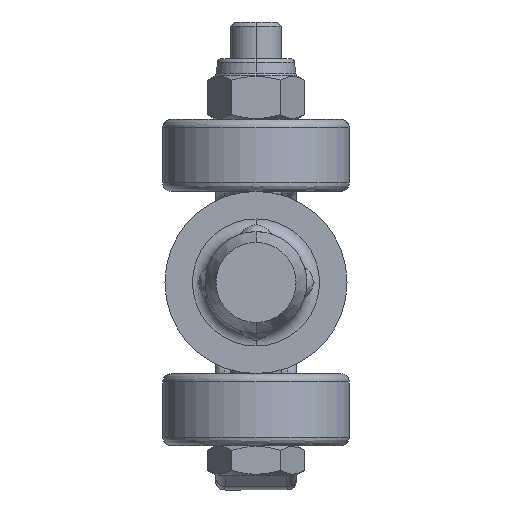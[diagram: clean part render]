
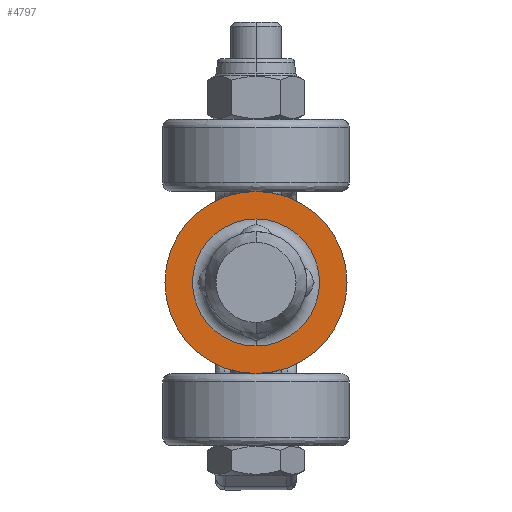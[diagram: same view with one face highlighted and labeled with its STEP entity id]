
A CAD part, front view. The second image highlights one B-rep face of the part: STEP entity #4797.
In plain terms, the highlighted planar face has unit normal (0, -1, 0) as drawn and (-1, 0, 0) by its records, which use the part's own axes.
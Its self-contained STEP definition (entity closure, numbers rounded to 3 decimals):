
#237 = VERTEX_POINT ( 'NONE', #7149 ) ;
#309 = DIRECTION ( 'NONE',  ( 0., 0., -1. ) ) ;
#480 = DIRECTION ( 'NONE',  ( 0., 0., 1. ) ) ;
#631 = VERTEX_POINT ( 'NONE', #8571 ) ;
#794 = ORIENTED_EDGE ( 'NONE', *, *, #9344, .F. ) ;
#819 = DIRECTION ( 'NONE',  ( 0., 0., 1. ) ) ;
#1054 = ORIENTED_EDGE ( 'NONE', *, *, #8908, .F. ) ;
#1238 = PLANE ( 'NONE',  #2893 ) ;
#1327 = EDGE_CURVE ( 'NONE', #3646, #237, #1387, .T. ) ;
#1346 = ORIENTED_EDGE ( 'NONE', *, *, #2818, .F. ) ;
#1387 = CIRCLE ( 'NONE', #2648, 10.75 ) ;
#2172 = DIRECTION ( 'NONE',  ( -1., 0., 0. ) ) ;
#2648 = AXIS2_PLACEMENT_3D ( 'NONE', #9064, #6096, #819 ) ;
#2818 = EDGE_CURVE ( 'NONE', #3698, #631, #2938, .T. ) ;
#2893 = AXIS2_PLACEMENT_3D ( 'NONE', #3513, #7281, #309 ) ;
#2938 = CIRCLE ( 'NONE', #4382, 7.5 ) ;
#3223 = AXIS2_PLACEMENT_3D ( 'NONE', #7997, #8924, #480 ) ;
#3513 = CARTESIAN_POINT ( 'NONE',  ( 0., 6.5, 0. ) ) ;
#3557 = ORIENTED_EDGE ( 'NONE', *, *, #1327, .F. ) ;
#3646 = VERTEX_POINT ( 'NONE', #5272 ) ;
#3698 = VERTEX_POINT ( 'NONE', #3817 ) ;
#3817 = CARTESIAN_POINT ( 'NONE',  ( 0., 0., -7.5 ) ) ;
#3884 = CIRCLE ( 'NONE', #9444, 7.5 ) ;
#4382 = AXIS2_PLACEMENT_3D ( 'NONE', #7961, #6665, #8791 ) ;
#4797 = ADVANCED_FACE ( 'NONE', ( #5026, #8756 ), #1238, .F. ) ;
#5026 = FACE_OUTER_BOUND ( 'NONE', #8734, .T. ) ;
#5193 = EDGE_LOOP ( 'NONE', ( #794, #1346 ) ) ;
#5272 = CARTESIAN_POINT ( 'NONE',  ( 0., 0., 10.75 ) ) ;
#6096 = DIRECTION ( 'NONE',  ( 1., 0., 0. ) ) ;
#6665 = DIRECTION ( 'NONE',  ( -1., 0., 0. ) ) ;
#7149 = CARTESIAN_POINT ( 'NONE',  ( 0., 0., -10.75 ) ) ;
#7281 = DIRECTION ( 'NONE',  ( 1., 0., 0. ) ) ;
#7435 = DIRECTION ( 'NONE',  ( 0., 0., 1. ) ) ;
#7961 = CARTESIAN_POINT ( 'NONE',  ( 0., 0., 0. ) ) ;
#7997 = CARTESIAN_POINT ( 'NONE',  ( 0., 0., 0. ) ) ;
#8571 = CARTESIAN_POINT ( 'NONE',  ( 0., 0., 7.5 ) ) ;
#8734 = EDGE_LOOP ( 'NONE', ( #3557, #1054 ) ) ;
#8756 = FACE_BOUND ( 'NONE', #5193, .T. ) ;
#8791 = DIRECTION ( 'NONE',  ( 0., 0., 1. ) ) ;
#8908 = EDGE_CURVE ( 'NONE', #237, #3646, #9126, .T. ) ;
#8924 = DIRECTION ( 'NONE',  ( 1., 0., 0. ) ) ;
#8959 = CARTESIAN_POINT ( 'NONE',  ( 0., 0., 0. ) ) ;
#9064 = CARTESIAN_POINT ( 'NONE',  ( 0., 0., 0. ) ) ;
#9126 = CIRCLE ( 'NONE', #3223, 10.75 ) ;
#9344 = EDGE_CURVE ( 'NONE', #631, #3698, #3884, .T. ) ;
#9444 = AXIS2_PLACEMENT_3D ( 'NONE', #8959, #2172, #7435 ) ;
